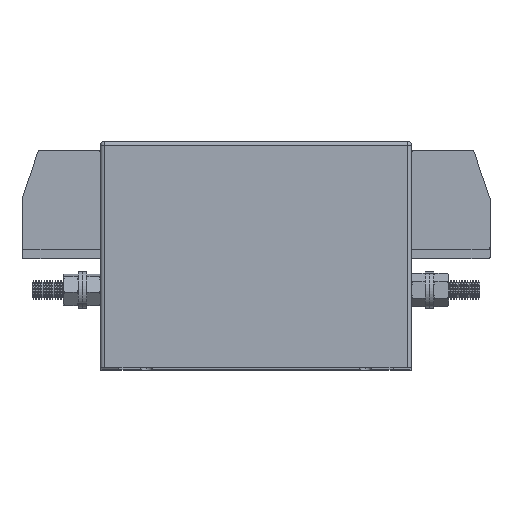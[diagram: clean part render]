
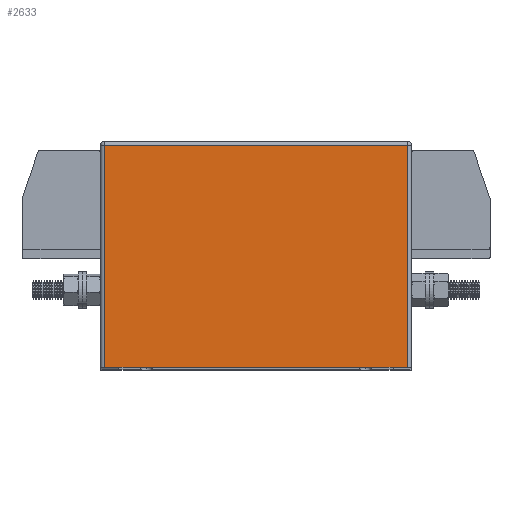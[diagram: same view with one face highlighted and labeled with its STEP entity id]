
A CAD part, top view. The second image highlights one B-rep face of the part: STEP entity #2633.
In plain terms, the highlighted planar face has unit normal (0, 0, 1).
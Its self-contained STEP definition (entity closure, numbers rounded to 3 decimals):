
#34 = CARTESIAN_POINT ( 'NONE',  ( 168., 125., -12.5 ) ) ;
#294 = FACE_OUTER_BOUND ( 'NONE', #8160, .T. ) ;
#347 = CARTESIAN_POINT ( 'NONE',  ( 2., 1.5, -12.5 ) ) ;
#558 = DIRECTION ( 'NONE',  ( -1., 0., 0. ) ) ;
#569 = VERTEX_POINT ( 'NONE', #6084 ) ;
#895 = VECTOR ( 'NONE', #558, 1000. ) ;
#1123 = LINE ( 'NONE', #5193, #895 ) ;
#1131 = ORIENTED_EDGE ( 'NONE', *, *, #2587, .T. ) ;
#1584 = LINE ( 'NONE', #34, #8947 ) ;
#1712 = EDGE_CURVE ( 'NONE', #569, #3412, #9131, .T. ) ;
#2587 = EDGE_CURVE ( 'NONE', #7092, #569, #1123, .T. ) ;
#2633 = ADVANCED_FACE ( 'NONE', ( #294 ), #6098, .F. ) ;
#2879 = EDGE_CURVE ( 'NONE', #9057, #7092, #1584, .T. ) ;
#3250 = LINE ( 'NONE', #3315, #7106 ) ;
#3315 = CARTESIAN_POINT ( 'NONE',  ( 0., 1.5, -12.5 ) ) ;
#3412 = VERTEX_POINT ( 'NONE', #347 ) ;
#3787 = CARTESIAN_POINT ( 'NONE',  ( 168., 1.5, -12.5 ) ) ;
#4320 = ORIENTED_EDGE ( 'NONE', *, *, #5394, .T. ) ;
#4611 = CARTESIAN_POINT ( 'NONE',  ( 0., 125., -12.5 ) ) ;
#5193 = CARTESIAN_POINT ( 'NONE',  ( 0., 123., -12.5 ) ) ;
#5394 = EDGE_CURVE ( 'NONE', #3412, #9057, #3250, .T. ) ;
#5455 = ORIENTED_EDGE ( 'NONE', *, *, #2879, .T. ) ;
#6084 = CARTESIAN_POINT ( 'NONE',  ( 2., 123., -12.5 ) ) ;
#6098 = PLANE ( 'NONE',  #6230 ) ;
#6230 = AXIS2_PLACEMENT_3D ( 'NONE', #4611, #6861, #9224 ) ;
#6371 = VECTOR ( 'NONE', #9724, 1000. ) ;
#6399 = ORIENTED_EDGE ( 'NONE', *, *, #1712, .T. ) ;
#6593 = CARTESIAN_POINT ( 'NONE',  ( 2., 125., -12.5 ) ) ;
#6861 = DIRECTION ( 'NONE',  ( 0., 0., -1. ) ) ;
#7030 = DIRECTION ( 'NONE',  ( 0., 1., 0. ) ) ;
#7092 = VERTEX_POINT ( 'NONE', #8470 ) ;
#7106 = VECTOR ( 'NONE', #9474, 1000. ) ;
#8160 = EDGE_LOOP ( 'NONE', ( #1131, #6399, #4320, #5455 ) ) ;
#8470 = CARTESIAN_POINT ( 'NONE',  ( 168., 123., -12.5 ) ) ;
#8947 = VECTOR ( 'NONE', #7030, 1000. ) ;
#9057 = VERTEX_POINT ( 'NONE', #3787 ) ;
#9131 = LINE ( 'NONE', #6593, #6371 ) ;
#9224 = DIRECTION ( 'NONE',  ( -1., 0., 0. ) ) ;
#9474 = DIRECTION ( 'NONE',  ( 1., 0., 0. ) ) ;
#9724 = DIRECTION ( 'NONE',  ( 0., -1., 0. ) ) ;
